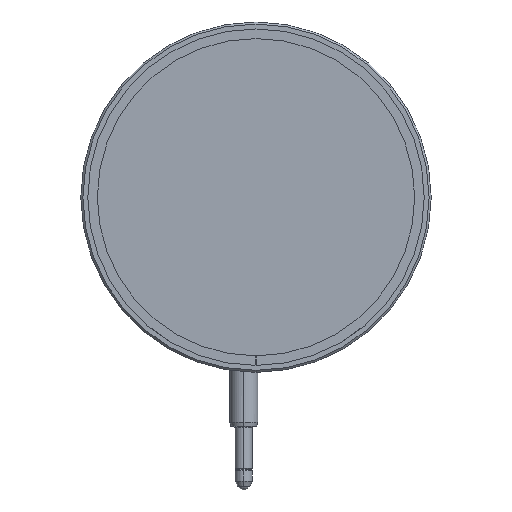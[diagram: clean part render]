
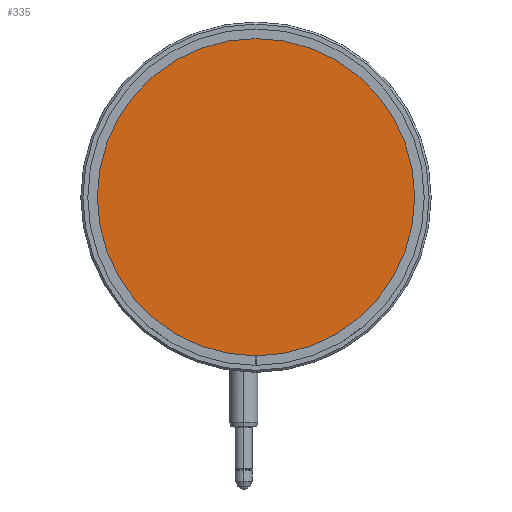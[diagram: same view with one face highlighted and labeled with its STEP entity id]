
A CAD part, front view. The second image highlights one B-rep face of the part: STEP entity #335.
In plain terms, the highlighted planar face has unit normal (0, -1, 0).
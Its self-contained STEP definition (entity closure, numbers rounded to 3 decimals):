
#335=ADVANCED_FACE('',(#705),#706,.T.);
#705=FACE_OUTER_BOUND('',#1104,.T.);
#706=PLANE('',#1105);
#1104=EDGE_LOOP('',(#1999,#2000,#2001,#2002,#2003,#2004));
#1105=AXIS2_PLACEMENT_3D('',#2005,#2006,#2007);
#1999=ORIENTED_EDGE('',*,*,#2540,.T.);
#2000=ORIENTED_EDGE('',*,*,#2267,.T.);
#2001=ORIENTED_EDGE('',*,*,#2542,.T.);
#2002=ORIENTED_EDGE('',*,*,#2264,.T.);
#2003=ORIENTED_EDGE('',*,*,#2538,.T.);
#2004=ORIENTED_EDGE('',*,*,#2255,.T.);
#2005=CARTESIAN_POINT('',(0.0,-14.95,0.0));
#2006=DIRECTION('',(0.0,-1.0,0.0));
#2007=DIRECTION('',(1.0,0.0,0.0));
#2255=EDGE_CURVE('',#2666,#2664,#2667,.T.);
#2264=EDGE_CURVE('',#2677,#2681,#2683,.T.);
#2267=EDGE_CURVE('',#2688,#2685,#2689,.T.);
#2538=EDGE_CURVE('',#2681,#2666,#3075,.T.);
#2540=EDGE_CURVE('',#2664,#2688,#3077,.T.);
#2542=EDGE_CURVE('',#2685,#2677,#3079,.T.);
#2664=VERTEX_POINT('',#3238);
#2666=VERTEX_POINT('',#3241);
#2667=CIRCLE('',#3242,48.25);
#2677=VERTEX_POINT('',#3254);
#2681=VERTEX_POINT('',#3259);
#2683=CIRCLE('',#3262,45.5);
#2685=VERTEX_POINT('',#3264);
#2688=VERTEX_POINT('',#3268);
#2689=CIRCLE('',#3269,45.5);
#3075=LINE('',#3882,#3883);
#3077=LINE('',#3885,#3886);
#3079=CIRCLE('',#3888,45.5);
#3238=CARTESIAN_POINT('',(0.01,-14.95,-48.25));
#3241=CARTESIAN_POINT('',(-0.01,-14.95,-48.25));
#3242=AXIS2_PLACEMENT_3D('',#4039,#4040,#4041);
#3254=CARTESIAN_POINT('',(-45.5,-14.95,0.));
#3259=CARTESIAN_POINT('',(-0.01,-14.95,-45.5));
#3262=AXIS2_PLACEMENT_3D('',#4055,#4056,#4057);
#3264=CARTESIAN_POINT('',(45.5,-14.95,0.));
#3268=CARTESIAN_POINT('',(0.01,-14.95,-45.5));
#3269=AXIS2_PLACEMENT_3D('',#4059,#4060,#4061);
#3882=CARTESIAN_POINT('',(-0.01,-14.95,-23.75));
#3883=VECTOR('',#4431,1.0);
#3885=CARTESIAN_POINT('',(0.01,-14.95,-23.75));
#3886=VECTOR('',#4432,1.0);
#3888=AXIS2_PLACEMENT_3D('',#4433,#4434,#4435);
#4039=CARTESIAN_POINT('',(0.0,-14.95,0.0));
#4040=DIRECTION('',(0.0,-1.0,0.0));
#4041=DIRECTION('',(1.0,0.0,0.0));
#4055=CARTESIAN_POINT('',(0.0,-14.95,0.0));
#4056=DIRECTION('',(0.0,-1.0,0.0));
#4057=DIRECTION('',(1.0,0.0,0.0));
#4059=CARTESIAN_POINT('',(0.0,-14.95,0.0));
#4060=DIRECTION('',(0.0,-1.0,0.0));
#4061=DIRECTION('',(1.0,0.0,0.0));
#4431=DIRECTION('',(-0.0,-0.0,-1.0));
#4432=DIRECTION('',(0.0,0.0,1.0));
#4433=CARTESIAN_POINT('',(0.0,-14.95,0.0));
#4434=DIRECTION('',(0.0,-1.0,0.0));
#4435=DIRECTION('',(1.0,0.0,0.0));
